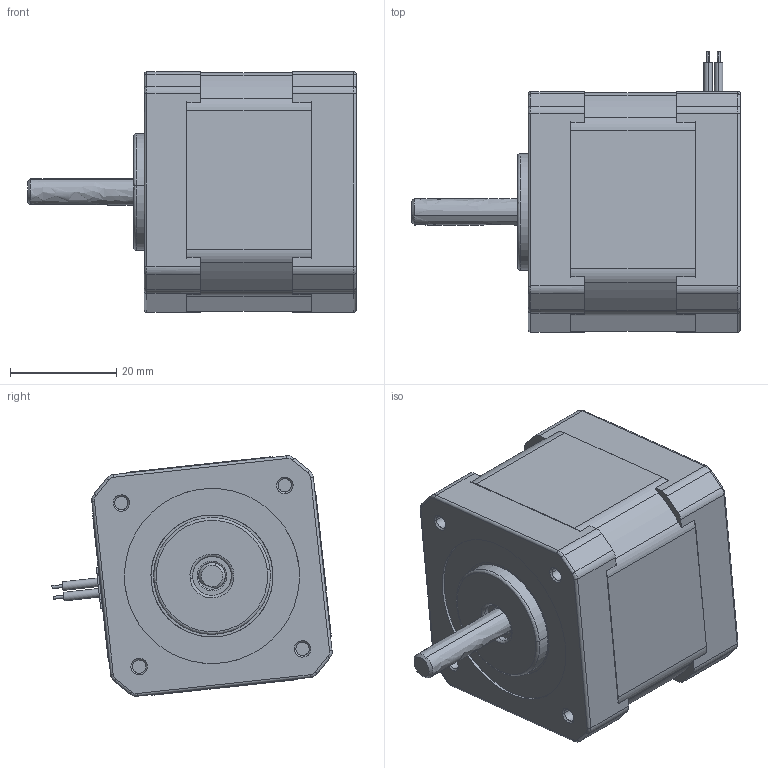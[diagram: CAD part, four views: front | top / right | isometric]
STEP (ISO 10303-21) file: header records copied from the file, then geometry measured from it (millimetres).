
FILE_DESCRIPTION(/* description */ (''),/* implementation_level */ '2;1');
FILE_NAME(/* name */ 'Nema17',/* time_stamp */ '2019-04-01T21:32:54-03:00',/* author */ (''),/* organization */ (''),/* preprocessor_version */ 'ST-DEVELOPER v16.5',/* originating_system */ '',/* authorisation */ '');
FILE_SCHEMA (('AUTOMOTIVE_DESIGN'));
Length unit declared in the file: millimetre
Products named in the file (2): Document; NEMA-17 40mm PR___ _________
Assembly tree (1 placements, depth 2):
  Document
    NEMA-17 40mm PR___ _________
Bounding box: 62 x 52.83 x 45.31 mm (x, y, z)
Volume: 51395.9 mm3; surface area: 24554.3 mm2
Topology: 11 solids, 11 shells, 846 faces, 2124 edges, 1350 vertices
Faces by surface type: bspline 424, plane 422
Entity records: 36572 total; most frequent: CARTESIAN_POINT 22970, ORIENTED_EDGE 4228, EDGE_CURVE 2114, B_SPLINE_CURVE_WITH_KNOTS 1602, VERTEX_POINT 1350, EDGE_LOOP 940, ADVANCED_FACE 846, FACE_OUTER_BOUND 846
